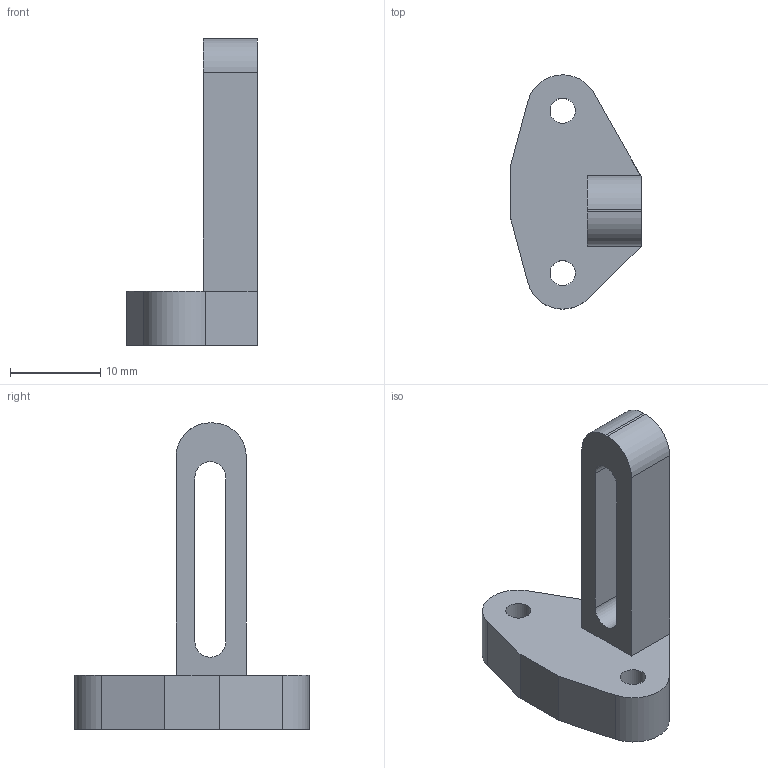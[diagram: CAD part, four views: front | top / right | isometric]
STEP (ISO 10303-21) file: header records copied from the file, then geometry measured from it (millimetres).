
FILE_DESCRIPTION(/* description */ (''),/* implementation_level */ '2;1');
FILE_NAME(/* name */ 'BLtouch Mount v1.step',/* time_stamp */ '2023-03-23T06:34:57-06:00',/* author */ (''),/* organization */ (''),/* preprocessor_version */ 'ST-DEVELOPER v19.2',/* originating_system */ 'Autodesk Translation Framework v11.17.0.187',/* authorisation */ '');
FILE_SCHEMA (('AUTOMOTIVE_DESIGN { 1 0 10303 214 3 1 1 }'));
Length unit declared in the file: millimetre
Products named in the file (2): BLtouch Mount; BLtouch
Assembly tree (1 placements, depth 2):
  BLtouch Mount
    BLtouch
Bounding box: 14.46 x 26 x 34 mm (x, y, z)
Volume: 2469.2 mm3; surface area: 1918.5 mm2
Topology: 1 solids, 1 shells, 22 faces, 59 edges, 39 vertices
Faces by surface type: plane 14, cylinder 8
Full cylindrical faces by diameter (mm): 2.8 x2
Entity records: 757 total; most frequent: DIRECTION 126, CARTESIAN_POINT 123, ORIENTED_EDGE 118, EDGE_CURVE 59, LINE 42, VECTOR 42, AXIS2_PLACEMENT_3D 42, VERTEX_POINT 39
